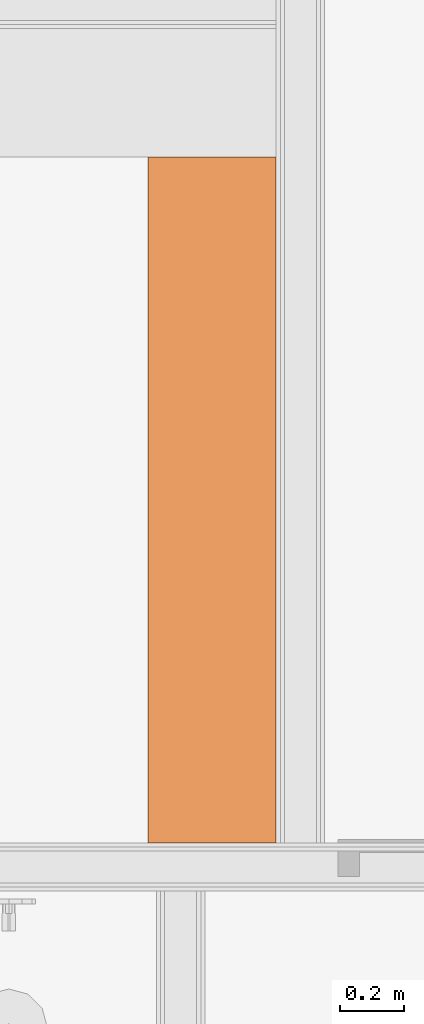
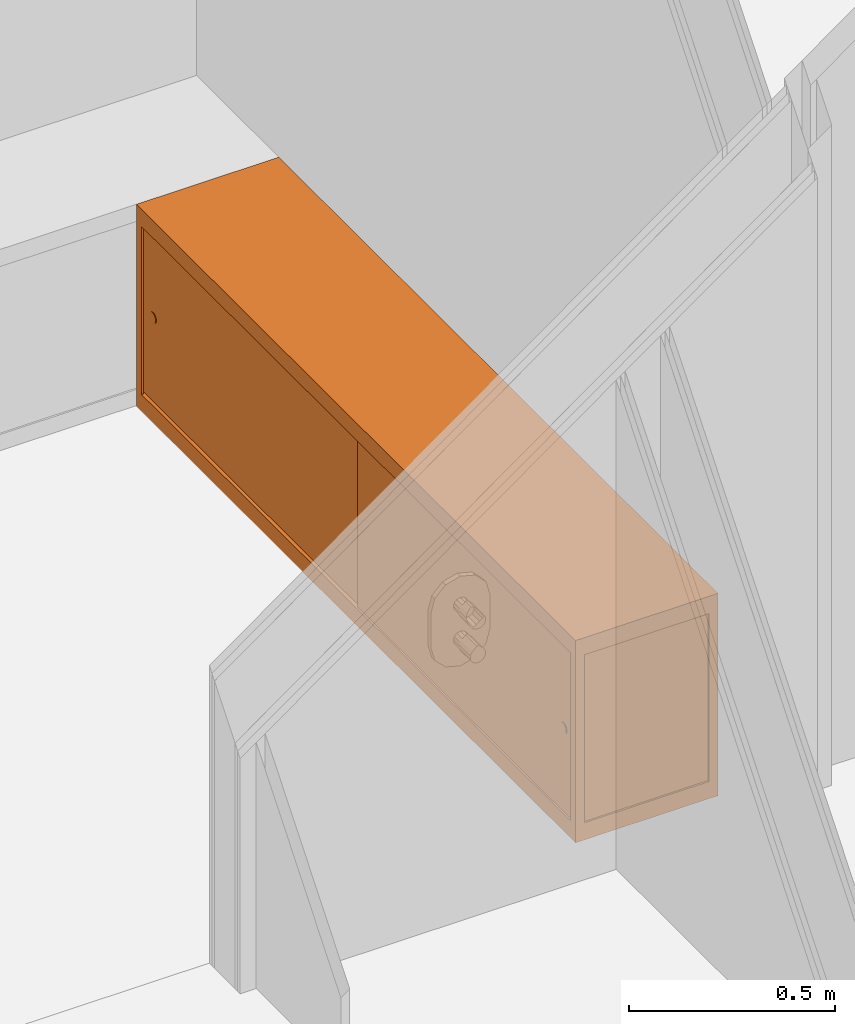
# One storey, part 34 of 35: 1 proxy.
"""IFC2X3 building model written with IfcOpenShell, lengths in millimetres."""

from ifc_helpers import new_model, entity, si_unit, converted_unit, derived_unit, money_unit, direction, frame, origin_with_axes, place, context, subcontext, project, spatial, faceted_brep, type_object, element, save


model = new_model("IFC2X3")

# Units and contexts
model_context = context("Model", 3, precision=0.01, world=origin_with_axes(), true_north=direction((0.0, 1.0)))
body_context = subcontext(model_context, "Body", "Model", "MODEL_VIEW")
ifc_project = project(units=[si_unit("LENGTHUNIT", "METRE", prefix="MILLI"), si_unit("AREAUNIT", "SQUARE_METRE"), si_unit("VOLUMEUNIT", "CUBIC_METRE"), converted_unit("PLANEANGLEUNIT", "DEGREE", entity("IfcPlaneAngleMeasure", 0.0174532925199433), si_unit("PLANEANGLEUNIT", "RADIAN"), dimensions=[0, 0, 0, 0, 0, 0, 0]), money_unit("EUR"), converted_unit("TIMEUNIT", "Year", entity("IfcTimeMeasure", 31557600.0), si_unit("TIMEUNIT", "SECOND"), dimensions=[0, 0, 1, 0, 0, 0, 0]), si_unit("MASSUNIT", "GRAM", prefix="KILO"), si_unit("THERMODYNAMICTEMPERATUREUNIT", "DEGREE_CELSIUS"), si_unit("LUMINOUSINTENSITYUNIT", "LUMEN"), si_unit("ENERGYUNIT", "JOULE", prefix="MEGA"), derived_unit("THERMALCONDUCTANCEUNIT", [(si_unit("POWERUNIT", "WATT"), 1), (si_unit("LENGTHUNIT", "METRE"), -1), (si_unit("THERMODYNAMICTEMPERATUREUNIT", "KELVIN"), -1)]), derived_unit("SPECIFICHEATCAPACITYUNIT", [(si_unit("ENERGYUNIT", "JOULE"), 1), (si_unit("MASSUNIT", "GRAM", prefix="KILO"), -1), (si_unit("THERMODYNAMICTEMPERATUREUNIT", "KELVIN"), -1)]), derived_unit("MASSDENSITYUNIT", [(si_unit("MASSUNIT", "GRAM", prefix="KILO"), 1), (si_unit("VOLUMEUNIT", "CUBIC_METRE"), -1)])], contexts=[model_context])

# Site, building, storey
site_placement = place(None, origin_with_axes())
site = spatial("IfcSite", under=ifc_project, at=site_placement, Name="<site naam>", CompositionType="ELEMENT")
building_placement = place(site_placement, origin_with_axes())
building = spatial("IfcBuilding", under=site, at=building_placement, Name="<Naam gebouw>", CompositionType="ELEMENT")
storey_placement = place(building_placement, frame((0.0, 0.0, 6345.0), z_axis=(0.0, 0.0, 1.0), x_axis=(1.0, 0.0, 0.0)))
storey = spatial("IfcBuildingStorey", under=building, at=storey_placement, Name="02 2e tussenverdieping", CompositionType="ELEMENT", Elevation=6345.0)

# Proxy
building_element_proxy_type = type_object("IfcBuildingElementProxyType", Name="Boekenkast 04 27 KM", PredefinedType="USERDEFINED")
proxy_placement = place(storey_placement, frame((55365.78288642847, 4385.000005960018, 0.0), z_axis=(0.0, 0.0, 1.0), x_axis=(0.0, -1.0, 0.0)))
element("IfcBuildingElementProxy", 1, at=proxy_placement, inside=storey, type_object=building_element_proxy_type, Name="72_Brandslanghaspelkast_Lege", ObjectType="Massing", context=body_context, shape_type="Brep", body=[
    faceted_brep([(0.0, 0.0, 0.0), (25.4, 0.0, 0.0), (25.4, 0.0, 600.0), (0.0, 0.0, 600.0), (0.0, 25.4, 0.0), (5.0, 25.4, 0.0), (5.0, 5.0, 0.0), (25.4, 5.0, 0.0), (25.4, 5.0, 600.0), (5.0, 5.0, 600.0), (5.0, 25.4, 600.0), (0.0, 25.4, 600.0)], [[[0, 1, 2, 3]], [[0, 4, 5, 6, 7, 1]], [[1, 7, 8, 2]], [[3, 2, 8, 9, 10, 11]], [[4, 0, 3, 11]], [[5, 4, 11, 10]], [[6, 5, 10, 9]], [[7, 6, 9, 8]]]),
    faceted_brep([(2134.999921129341, 25.4, 0.0), (2129.999921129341, 25.4, 0.0), (2129.999921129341, 25.4, 600.0), (2134.999921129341, 25.4, 600.0), (2134.999921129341, 0.0, 0.0), (2109.599921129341, 0.0, 0.0), (2109.599921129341, 5.0, 0.0), (2129.999921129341, 5.0, 0.0), (2129.999921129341, 5.0, 600.0), (2109.599921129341, 5.0, 600.0), (2109.599921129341, 0.0, 600.0), (2134.999921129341, 0.0, 600.0)], [[[0, 1, 2, 3]], [[0, 4, 5, 6, 7, 1]], [[1, 7, 8, 2]], [[3, 2, 8, 9, 10, 11]], [[4, 0, 3, 11]], [[5, 4, 11, 10]], [[6, 5, 10, 9]], [[7, 6, 9, 8]]]),
    faceted_brep([(0.0, 374.5999523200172, 0.0), (5.0, 374.5999523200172, 0.0), (5.0, 374.5999523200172, 600.0), (0.0, 374.5999523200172, 600.0), (0.0, 399.9999523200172, 0.0), (25.4, 399.9999523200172, 0.0), (25.4, 394.9999523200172, 0.0), (5.0, 394.9999523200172, 0.0), (5.0, 394.9999523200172, 600.0), (25.4, 394.9999523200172, 600.0), (25.4, 399.9999523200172, 600.0), (0.0, 399.9999523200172, 600.0)], [[[0, 1, 2, 3]], [[0, 4, 5, 6, 7, 1]], [[1, 7, 8, 2]], [[3, 2, 8, 9, 10, 11]], [[4, 0, 3, 11]], [[5, 4, 11, 10]], [[6, 5, 10, 9]], [[7, 6, 9, 8]]]),
    faceted_brep([(2134.999921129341, 399.9999523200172, 0.0), (2109.599921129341, 399.9999523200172, 0.0), (2109.599921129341, 399.9999523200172, 600.0), (2134.999921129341, 399.9999523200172, 600.0), (2134.999921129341, 374.5999523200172, 0.0), (2129.999921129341, 374.5999523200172, 0.0), (2129.999921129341, 394.9999523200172, 0.0), (2109.599921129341, 394.9999523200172, 0.0), (2109.599921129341, 394.9999523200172, 600.0), (2129.999921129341, 394.9999523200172, 600.0), (2129.999921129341, 374.5999523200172, 600.0), (2134.999921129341, 374.5999523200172, 600.0)], [[[0, 1, 2, 3]], [[0, 4, 5, 6, 7, 1]], [[1, 7, 8, 2]], [[3, 2, 8, 9, 10, 11]], [[4, 0, 3, 11]], [[5, 4, 11, 10]], [[6, 5, 10, 9]], [[7, 6, 9, 8]]]),
    faceted_brep([(5.0, 394.9999523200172, 0.0), (2129.999921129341, 394.9999523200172, 0.0), (2129.999921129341, 389.9999523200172, 0.0), (5.0, 389.9999523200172, 0.0), (5.0, 394.9999523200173, 549.2), (2129.999921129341, 394.9999523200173, 549.2), (2129.999921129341, 389.9999523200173, 549.2), (5.0, 389.9999523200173, 549.2)], [[[0, 1, 2, 3]], [[0, 4, 5, 1]], [[1, 5, 6, 2]], [[3, 2, 6, 7]], [[4, 0, 3, 7]], [[5, 4, 7, 6]]]),
    faceted_brep([(10.0, 389.9999523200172, 0.0), (10.00000000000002, 5.000000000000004, 0.0), (5.000000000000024, 5.000000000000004, 0.0), (5.0, 389.9999523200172, 0.0), (10.0, 389.9999523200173, 549.2), (10.00000000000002, 5.00000000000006, 549.2), (5.000000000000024, 5.00000000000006, 549.2), (5.0, 389.9999523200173, 549.2)], [[[0, 1, 2, 3]], [[0, 4, 5, 1]], [[1, 5, 6, 2]], [[3, 2, 6, 7]], [[4, 0, 3, 7]], [[5, 4, 7, 6]]]),
    faceted_brep([(2129.999921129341, 389.9999523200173, 0.0), (2129.999921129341, 5.000000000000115, 0.0), (2124.999921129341, 5.000000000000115, 0.0), (2124.999921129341, 389.9999523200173, 0.0), (2129.999921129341, 389.9999523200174, 549.2), (2129.999921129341, 5.000000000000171, 549.2), (2124.999921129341, 5.000000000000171, 549.2), (2124.999921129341, 389.9999523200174, 549.2)], [[[0, 1, 2, 3]], [[0, 4, 5, 1]], [[1, 5, 6, 2]], [[3, 2, 6, 7]], [[4, 0, 3, 7]], [[5, 4, 7, 6]]]),
    faceted_brep([(10.0, 10.0, 50.8), (1067.49996056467, 10.0, 50.8), (1067.49996056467, 10.0, 549.1999999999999), (10.0, 10.0, 549.1999999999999), (10.0, 15.0, 50.8), (1067.49996056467, 15.0, 50.8), (1067.49996056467, 15.0, 549.1999999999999), (10.0, 15.0, 549.1999999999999)], [[[0, 1, 2, 3]], [[0, 4, 5, 1]], [[1, 5, 6, 2]], [[3, 2, 6, 7]], [[4, 0, 3, 7]], [[5, 4, 7, 6]]]),
    faceted_brep([(1067.49996056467, 5.0, 50.8), (2124.999921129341, 5.0, 50.8), (2124.999921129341, 5.0, 549.1999999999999), (1067.49996056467, 5.0, 549.1999999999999), (1067.49996056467, 10.0, 50.8), (2124.999921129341, 10.0, 50.8), (2124.999921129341, 10.0, 549.1999999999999), (1067.49996056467, 10.0, 549.1999999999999)], [[[0, 1, 2, 3]], [[0, 4, 5, 1]], [[1, 5, 6, 2]], [[3, 2, 6, 7]], [[4, 0, 3, 7]], [[5, 4, 7, 6]]]),
    faceted_brep([(80.17211629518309, 10.00000000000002, 297.395277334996), (79.4953893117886, 10.00000000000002, 294.869697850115), (78.39038105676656, 10.00000000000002, 292.5), (76.89066664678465, 10.00000000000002, 290.3581858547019), (75.04181414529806, 10.00000000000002, 288.5093333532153), (72.89999999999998, 10.00000000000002, 287.0096189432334), (70.53030214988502, 10.00000000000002, 285.9046106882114), (68.00472266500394, 10.00000000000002, 285.2278837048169), (65.4, 10.00000000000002, 285.0000000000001), (62.79527733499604, 10.00000000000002, 285.2278837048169), (60.26969785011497, 10.00000000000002, 285.9046106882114), (57.90000000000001, 10.00000000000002, 287.0096189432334), (55.75818585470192, 10.00000000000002, 288.5093333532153), (53.90933335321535, 10.00000000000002, 290.3581858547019), (52.40961894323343, 10.00000000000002, 292.5), (51.30461068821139, 10.00000000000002, 294.869697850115), (50.62788370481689, 10.00000000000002, 297.395277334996), (50.40000000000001, 10.00000000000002, 300.0), (50.62788370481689, 10.00000000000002, 302.6047226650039), (51.30461068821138, 10.00000000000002, 305.130302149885), (52.40961894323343, 10.00000000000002, 307.5), (53.90933335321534, 10.00000000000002, 309.641814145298), (55.75818585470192, 10.00000000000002, 311.4906666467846), (57.90000000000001, 10.00000000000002, 312.9903810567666), (60.26969785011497, 10.00000000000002, 314.0953893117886), (62.79527733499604, 10.00000000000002, 314.7721162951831), (65.4, 10.00000000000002, 315.0), (68.00472266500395, 10.00000000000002, 314.7721162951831), (70.53030214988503, 10.00000000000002, 314.0953893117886), (72.89999999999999, 10.00000000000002, 312.9903810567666), (75.04181414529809, 10.00000000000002, 311.4906666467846), (76.89066664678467, 10.00000000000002, 309.641814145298), (78.39038105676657, 10.00000000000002, 307.5), (79.49538931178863, 10.00000000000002, 305.130302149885), (80.17211629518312, 10.00000000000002, 302.6047226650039), (80.4, 10.00000000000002, 300.0), (80.17211629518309, 8.00000000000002, 297.395277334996), (79.4953893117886, 8.00000000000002, 294.869697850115), (78.39038105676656, 8.00000000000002, 292.5), (76.89066664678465, 8.00000000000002, 290.3581858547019), (75.04181414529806, 8.000000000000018, 288.5093333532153), (72.89999999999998, 8.000000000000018, 287.0096189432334), (70.53030214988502, 8.000000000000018, 285.9046106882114), (68.00472266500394, 8.000000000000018, 285.2278837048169), (65.4, 8.000000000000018, 285.0000000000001), (62.79527733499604, 8.000000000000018, 285.2278837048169), (60.26969785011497, 8.000000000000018, 285.9046106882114), (57.90000000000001, 8.000000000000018, 287.0096189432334), (55.75818585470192, 8.000000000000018, 288.5093333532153), (53.90933335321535, 8.00000000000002, 290.3581858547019), (52.40961894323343, 8.00000000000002, 292.5), (51.30461068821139, 8.00000000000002, 294.869697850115), (50.62788370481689, 8.00000000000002, 297.395277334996), (50.40000000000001, 8.00000000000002, 300.0), (50.62788370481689, 8.00000000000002, 302.6047226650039), (51.30461068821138, 8.00000000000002, 305.130302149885), (52.40961894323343, 8.00000000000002, 307.5), (53.90933335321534, 8.00000000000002, 309.641814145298), (55.75818585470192, 8.000000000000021, 311.4906666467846), (57.90000000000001, 8.000000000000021, 312.9903810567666), (60.26969785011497, 8.000000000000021, 314.0953893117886), (62.79527733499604, 8.000000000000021, 314.7721162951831), (65.4, 8.000000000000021, 315.0), (68.00472266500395, 8.000000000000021, 314.7721162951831), (70.53030214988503, 8.000000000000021, 314.0953893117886), (72.89999999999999, 8.000000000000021, 312.9903810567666), (75.04181414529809, 8.000000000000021, 311.4906666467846), (76.89066664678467, 8.00000000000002, 309.641814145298), (78.39038105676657, 8.00000000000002, 307.5), (79.49538931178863, 8.00000000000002, 305.130302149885), (80.17211629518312, 8.00000000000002, 302.6047226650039), (80.4, 8.00000000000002, 300.0)], [[[0, 1, 2, 3, 4, 5, 6, 7, 8, 9, 10, 11, 12, 13, 14, 15, 16, 17, 18, 19, 20, 21, 22, 23, 24, 25, 26, 27, 28, 29, 30, 31, 32, 33, 34, 35]], [[1, 0, 36, 37]], [[2, 1, 37, 38]], [[3, 2, 38, 39]], [[4, 3, 39, 40]], [[5, 4, 40, 41]], [[6, 5, 41, 42]], [[7, 6, 42, 43]], [[8, 7, 43, 44]], [[9, 8, 44, 45]], [[10, 9, 45, 46]], [[11, 10, 46, 47]], [[12, 11, 47, 48]], [[13, 12, 48, 49]], [[14, 13, 49, 50]], [[15, 14, 50, 51]], [[16, 15, 51, 52]], [[17, 16, 52, 53]], [[18, 17, 53, 54]], [[19, 18, 54, 55]], [[20, 19, 55, 56]], [[21, 20, 56, 57]], [[22, 21, 57, 58]], [[23, 22, 58, 59]], [[24, 23, 59, 60]], [[25, 24, 60, 61]], [[26, 25, 61, 62]], [[27, 26, 62, 63]], [[28, 27, 63, 64]], [[29, 28, 64, 65]], [[30, 29, 65, 66]], [[31, 30, 66, 67]], [[32, 31, 67, 68]], [[33, 32, 68, 69]], [[34, 33, 69, 70]], [[35, 34, 70, 71]], [[0, 35, 71, 36]], [[36, 71, 70, 69, 68, 67, 66, 65, 64, 63, 62, 61, 60, 59, 58, 57, 56, 55, 54, 53, 52, 51, 50, 49, 48, 47, 46, 45, 44, 43, 42, 41, 40, 39, 38, 37]]]),
    faceted_brep([(2084.372037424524, 5.00000000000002, 297.395277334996), (2083.69531044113, 5.00000000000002, 294.869697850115), (2082.590302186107, 5.000000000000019, 292.5), (2081.090587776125, 5.000000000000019, 290.3581858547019), (2079.241735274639, 5.000000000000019, 288.5093333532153), (2077.099921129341, 5.000000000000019, 287.0096189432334), (2074.730223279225, 5.000000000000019, 285.9046106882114), (2072.204643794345, 5.000000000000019, 285.2278837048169), (2069.599921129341, 5.000000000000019, 285.0000000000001), (2066.995198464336, 5.000000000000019, 285.2278837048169), (2064.469618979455, 5.000000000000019, 285.9046106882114), (2062.099921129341, 5.000000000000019, 287.0096189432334), (2059.958106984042, 5.000000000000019, 288.5093333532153), (2058.109254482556, 5.000000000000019, 290.3581858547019), (2056.609540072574, 5.000000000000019, 292.5), (2055.504531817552, 5.00000000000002, 294.869697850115), (2054.827804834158, 5.00000000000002, 297.395277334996), (2054.599921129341, 5.00000000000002, 300.0), (2054.827804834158, 5.00000000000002, 302.6047226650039), (2055.504531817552, 5.00000000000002, 305.130302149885), (2056.609540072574, 5.00000000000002, 307.5), (2058.109254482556, 5.00000000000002, 309.641814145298), (2059.958106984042, 5.00000000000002, 311.4906666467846), (2062.099921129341, 5.00000000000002, 312.9903810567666), (2064.469618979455, 5.00000000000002, 314.0953893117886), (2066.995198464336, 5.00000000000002, 314.7721162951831), (2069.599921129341, 5.00000000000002, 315.0), (2072.204643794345, 5.00000000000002, 314.7721162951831), (2074.730223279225, 5.00000000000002, 314.0953893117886), (2077.099921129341, 5.00000000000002, 312.9903810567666), (2079.241735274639, 5.00000000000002, 311.4906666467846), (2081.090587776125, 5.00000000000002, 309.641814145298), (2082.590302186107, 5.00000000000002, 307.5), (2083.69531044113, 5.00000000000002, 305.130302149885), (2084.372037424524, 5.00000000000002, 302.6047226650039), (2084.599921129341, 5.00000000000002, 300.0), (2084.372037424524, 3.000000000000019, 297.395277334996), (2083.69531044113, 3.000000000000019, 294.869697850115), (2082.590302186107, 3.000000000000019, 292.5), (2081.090587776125, 3.000000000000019, 290.3581858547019), (2079.241735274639, 3.000000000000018, 288.5093333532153), (2077.099921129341, 3.000000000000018, 287.0096189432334), (2074.730223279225, 3.000000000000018, 285.9046106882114), (2072.204643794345, 3.000000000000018, 285.2278837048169), (2069.599921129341, 3.000000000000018, 285.0000000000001), (2066.995198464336, 3.000000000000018, 285.2278837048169), (2064.469618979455, 3.000000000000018, 285.9046106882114), (2062.099921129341, 3.000000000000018, 287.0096189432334), (2059.958106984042, 3.000000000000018, 288.5093333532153), (2058.109254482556, 3.000000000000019, 290.3581858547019), (2056.609540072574, 3.000000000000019, 292.5), (2055.504531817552, 3.000000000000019, 294.869697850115), (2054.827804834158, 3.000000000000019, 297.395277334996), (2054.599921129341, 3.000000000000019, 300.0), (2054.827804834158, 3.000000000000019, 302.6047226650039), (2055.504531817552, 3.00000000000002, 305.130302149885), (2056.609540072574, 3.00000000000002, 307.5), (2058.109254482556, 3.00000000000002, 309.641814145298), (2059.958106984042, 3.00000000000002, 311.4906666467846), (2062.099921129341, 3.00000000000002, 312.9903810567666), (2064.469618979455, 3.00000000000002, 314.0953893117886), (2066.995198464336, 3.00000000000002, 314.7721162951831), (2069.599921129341, 3.00000000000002, 315.0), (2072.204643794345, 3.00000000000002, 314.7721162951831), (2074.730223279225, 3.00000000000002, 314.0953893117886), (2077.099921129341, 3.00000000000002, 312.9903810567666), (2079.241735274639, 3.00000000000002, 311.4906666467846), (2081.090587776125, 3.00000000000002, 309.641814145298), (2082.590302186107, 3.00000000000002, 307.5), (2083.69531044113, 3.00000000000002, 305.130302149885), (2084.372037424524, 3.000000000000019, 302.6047226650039), (2084.599921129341, 3.000000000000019, 300.0)], [[[0, 1, 2, 3, 4, 5, 6, 7, 8, 9, 10, 11, 12, 13, 14, 15, 16, 17, 18, 19, 20, 21, 22, 23, 24, 25, 26, 27, 28, 29, 30, 31, 32, 33, 34, 35]], [[1, 0, 36, 37]], [[2, 1, 37, 38]], [[3, 2, 38, 39]], [[4, 3, 39, 40]], [[5, 4, 40, 41]], [[6, 5, 41, 42]], [[7, 6, 42, 43]], [[8, 7, 43, 44]], [[9, 8, 44, 45]], [[10, 9, 45, 46]], [[11, 10, 46, 47]], [[12, 11, 47, 48]], [[13, 12, 48, 49]], [[14, 13, 49, 50]], [[15, 14, 50, 51]], [[16, 15, 51, 52]], [[17, 16, 52, 53]], [[18, 17, 53, 54]], [[19, 18, 54, 55]], [[20, 19, 55, 56]], [[21, 20, 56, 57]], [[22, 21, 57, 58]], [[23, 22, 58, 59]], [[24, 23, 59, 60]], [[25, 24, 60, 61]], [[26, 25, 61, 62]], [[27, 26, 62, 63]], [[28, 27, 63, 64]], [[29, 28, 64, 65]], [[30, 29, 65, 66]], [[31, 30, 66, 67]], [[32, 31, 67, 68]], [[33, 32, 68, 69]], [[34, 33, 69, 70]], [[35, 34, 70, 71]], [[0, 35, 71, 36]], [[36, 71, 70, 69, 68, 67, 66, 65, 64, 63, 62, 61, 60, 59, 58, 57, 56, 55, 54, 53, 52, 51, 50, 49, 48, 47, 46, 45, 44, 43, 42, 41, 40, 39, 38, 37]]]),
    faceted_brep([(25.4, 399.9999523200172, 0.0), (25.4, 394.9999523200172, 0.0), (25.4, 394.9999523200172, 50.8), (25.4, 399.9999523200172, 50.8), (2109.599921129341, 399.9999523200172, 0.0), (2109.599921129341, 394.9999523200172, 0.0), (2109.599921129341, 394.9999523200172, 50.8), (2109.599921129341, 399.9999523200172, 50.8)], [[[0, 1, 2, 3]], [[0, 4, 5, 1]], [[1, 5, 6, 2]], [[3, 2, 6, 7]], [[4, 0, 3, 7]], [[5, 4, 7, 6]]]),
    faceted_brep([(0.0, 25.4, 0.0), (5.0, 25.4, 0.0), (5.0, 25.4, 50.8), (0.0, 25.4, 50.8), (0.0, 374.5999523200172, 0.0), (5.0, 374.5999523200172, 0.0), (5.0, 374.5999523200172, 50.8), (0.0, 374.5999523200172, 50.8)], [[[0, 1, 2, 3]], [[0, 4, 5, 1]], [[1, 5, 6, 2]], [[3, 2, 6, 7]], [[4, 0, 3, 7]], [[5, 4, 7, 6]]]),
    faceted_brep([(2134.999921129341, 374.5999523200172, 0.0), (2129.999921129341, 374.5999523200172, 0.0), (2129.999921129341, 374.5999523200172, 50.8), (2134.999921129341, 374.5999523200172, 50.8), (2134.999921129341, 25.4, 0.0), (2129.999921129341, 25.4, 0.0), (2129.999921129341, 25.4, 50.8), (2134.999921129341, 25.4, 50.8)], [[[0, 1, 2, 3]], [[0, 4, 5, 1]], [[1, 5, 6, 2]], [[3, 2, 6, 7]], [[4, 0, 3, 7]], [[5, 4, 7, 6]]]),
    faceted_brep([(2109.599921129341, 0.0, 0.0), (2109.599921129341, 5.0, 0.0), (2109.599921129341, 5.0, 50.8), (2109.599921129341, 0.0, 50.8), (25.4, 0.0, 0.0), (25.4, 5.0, 0.0), (10.0, 5.0, 0.0), (10.0, 20.0, 0.0), (2124.999921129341, 20.0, 0.0), (2124.999921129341, 5.0, 0.0), (2124.999921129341, 5.0, 50.8), (2124.999921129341, 20.0, 50.8), (10.0, 20.0, 50.8), (10.0, 5.0, 50.8), (25.4, 5.0, 50.8), (25.4, 0.0, 50.8)], [[[0, 1, 2, 3]], [[0, 4, 5, 6, 7, 8, 9, 1]], [[1, 9, 10, 2]], [[3, 2, 10, 11, 12, 13, 14, 15]], [[4, 0, 3, 15]], [[5, 4, 15, 14]], [[6, 5, 14, 13]], [[7, 6, 13, 12]], [[8, 7, 12, 11]], [[9, 8, 11, 10]]]),
    faceted_brep([(10.0, 10.0, 549.2), (2124.999921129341, 10.0, 549.2), (2124.999921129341, 10.0, 600.0), (10.0, 10.0, 600.0), (10.0, 389.9999523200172, 549.2), (2124.999921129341, 389.9999523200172, 549.2), (2124.999921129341, 389.9999523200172, 600.0), (10.0, 389.9999523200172, 600.0)], [[[0, 1, 2, 3]], [[0, 4, 5, 1]], [[1, 5, 6, 2]], [[3, 2, 6, 7]], [[4, 0, 3, 7]], [[5, 4, 7, 6]]]),
    faceted_brep([(0.0, 25.4, 549.2), (5.0, 25.4, 549.2), (5.0, 25.4, 600.0), (0.0, 25.4, 600.0), (0.0, 374.5999523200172, 549.2), (5.0, 374.5999523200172, 549.2), (5.0, 394.9999523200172, 549.2), (10.0, 389.9999523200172, 549.2), (10.0, 10.0, 549.2), (5.0, 5.0, 549.2), (5.0, 5.0, 600.0), (10.0, 10.0, 600.0), (10.0, 389.9999523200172, 600.0), (5.0, 394.9999523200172, 600.0), (5.0, 374.5999523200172, 600.0), (0.0, 374.5999523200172, 600.0)], [[[0, 1, 2, 3]], [[0, 4, 5, 6, 7, 8, 9, 1]], [[1, 9, 10, 2]], [[3, 2, 10, 11, 12, 13, 14, 15]], [[4, 0, 3, 15]], [[5, 4, 15, 14]], [[6, 5, 14, 13]], [[7, 6, 13, 12]], [[8, 7, 12, 11]], [[9, 8, 11, 10]]]),
    faceted_brep([(2134.999921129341, 374.5999523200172, 549.2), (2129.999921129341, 374.5999523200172, 549.2), (2129.999921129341, 374.5999523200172, 600.0), (2134.999921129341, 374.5999523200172, 600.0), (2134.999921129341, 25.4, 549.2), (2129.999921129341, 25.4, 549.2), (2129.999921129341, 5.0, 549.2), (2124.999921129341, 10.0, 549.2), (2124.999921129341, 389.9999523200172, 549.2), (2129.999921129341, 394.9999523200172, 549.2), (2129.999921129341, 394.9999523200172, 600.0), (2124.999921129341, 389.9999523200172, 600.0), (2124.999921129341, 10.0, 600.0), (2129.999921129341, 5.0, 600.0), (2129.999921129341, 25.4, 600.0), (2134.999921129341, 25.4, 600.0)], [[[0, 1, 2, 3]], [[0, 4, 5, 6, 7, 8, 9, 1]], [[1, 9, 10, 2]], [[3, 2, 10, 11, 12, 13, 14, 15]], [[4, 0, 3, 15]], [[5, 4, 15, 14]], [[6, 5, 14, 13]], [[7, 6, 13, 12]], [[8, 7, 12, 11]], [[9, 8, 11, 10]]]),
    faceted_brep([(2109.599921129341, 0.0, 549.2), (2109.599921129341, 5.0, 549.2), (2109.599921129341, 5.0, 600.0), (2109.599921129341, 0.0, 600.0), (25.4, 0.0, 549.2), (25.4, 5.0, 549.2), (5.0, 5.0, 549.2), (10.0, 10.0, 549.2), (2124.999921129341, 10.0, 549.2), (2129.999921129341, 5.0, 549.2), (2129.999921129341, 5.0, 600.0), (2124.999921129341, 10.0, 600.0), (10.0, 10.0, 600.0), (5.0, 5.0, 600.0), (25.4, 5.0, 600.0), (25.4, 0.0, 600.0)], [[[0, 1, 2, 3]], [[0, 4, 5, 6, 7, 8, 9, 1]], [[1, 9, 10, 2]], [[3, 2, 10, 11, 12, 13, 14, 15]], [[4, 0, 3, 15]], [[5, 4, 15, 14]], [[6, 5, 14, 13]], [[7, 6, 13, 12]], [[8, 7, 12, 11]], [[9, 8, 11, 10]]]),
    faceted_brep([(25.4, 399.9999523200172, 549.2), (25.4, 394.9999523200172, 549.2), (25.4, 394.9999523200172, 600.0), (25.4, 399.9999523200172, 600.0), (2109.599921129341, 399.9999523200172, 549.2), (2109.599921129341, 394.9999523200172, 549.2), (2129.999921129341, 394.9999523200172, 549.2), (2124.999921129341, 389.9999523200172, 549.2), (10.0, 389.9999523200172, 549.2), (5.0, 394.9999523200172, 549.2), (5.0, 394.9999523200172, 600.0), (10.0, 389.9999523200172, 600.0), (2124.999921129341, 389.9999523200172, 600.0), (2129.999921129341, 394.9999523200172, 600.0), (2109.599921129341, 394.9999523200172, 600.0), (2109.599921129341, 399.9999523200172, 600.0)], [[[0, 1, 2, 3]], [[0, 4, 5, 6, 7, 8, 9, 1]], [[1, 9, 10, 2]], [[3, 2, 10, 11, 12, 13, 14, 15]], [[4, 0, 3, 15]], [[5, 4, 15, 14]], [[6, 5, 14, 13]], [[7, 6, 13, 12]], [[8, 7, 12, 11]], [[9, 8, 11, 10]]]),
])

save(model, "model.ifc")
